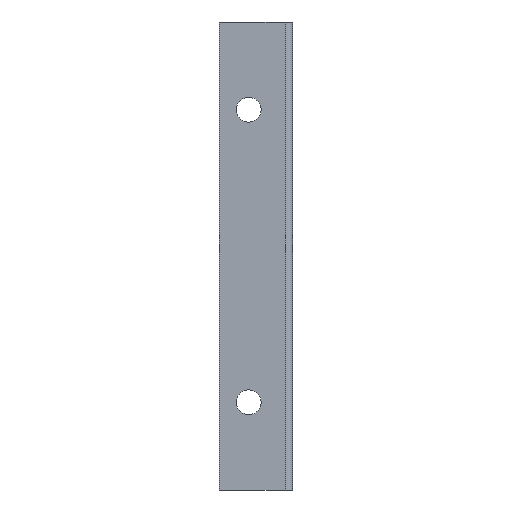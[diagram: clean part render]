
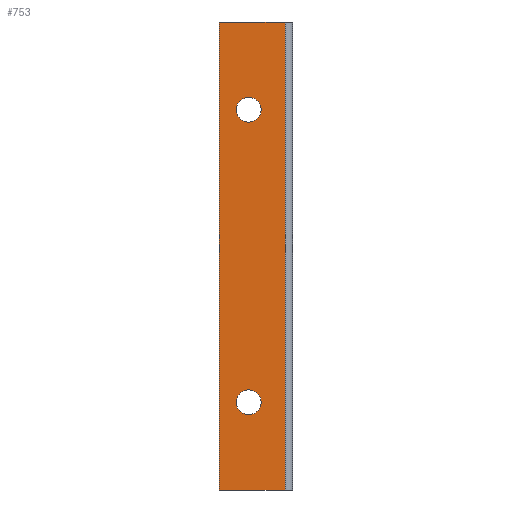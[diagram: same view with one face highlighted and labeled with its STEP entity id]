
A CAD part, front view. The second image highlights one B-rep face of the part: STEP entity #753.
In plain terms, the highlighted planar face has unit normal (0, -1, 0).
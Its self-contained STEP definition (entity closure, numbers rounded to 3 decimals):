
#18 = AXIS2_PLACEMENT_3D ( 'NONE', #217, #795, #876 ) ;
#60 = EDGE_CURVE ( 'NONE', #257, #564, #279, .T. ) ;
#66 = LINE ( 'NONE', #321, #614 ) ;
#68 = CARTESIAN_POINT ( 'NONE',  ( -15., 0., 45.75 ) ) ;
#78 = CARTESIAN_POINT ( 'NONE',  ( -25., 0., 80. ) ) ;
#120 = CIRCLE ( 'NONE', #717, 4.25 ) ;
#125 = ORIENTED_EDGE ( 'NONE', *, *, #348, .F. ) ;
#130 = FACE_BOUND ( 'NONE', #769, .T. ) ;
#139 = DIRECTION ( 'NONE',  ( 1., 0., 0. ) ) ;
#184 = CIRCLE ( 'NONE', #754, 4.25 ) ;
#199 = VECTOR ( 'NONE', #450, 1000. ) ;
#217 = CARTESIAN_POINT ( 'NONE',  ( 0., 0., -80. ) ) ;
#257 = VERTEX_POINT ( 'NONE', #78 ) ;
#260 = CARTESIAN_POINT ( 'NONE',  ( -15., 0., -50. ) ) ;
#278 = ORIENTED_EDGE ( 'NONE', *, *, #60, .F. ) ;
#279 = LINE ( 'NONE', #945, #199 ) ;
#293 = CIRCLE ( 'NONE', #785, 4.25 ) ;
#306 = LINE ( 'NONE', #631, #580 ) ;
#315 = CARTESIAN_POINT ( 'NONE',  ( -15., 0., 54.25 ) ) ;
#316 = VERTEX_POINT ( 'NONE', #835 ) ;
#321 = CARTESIAN_POINT ( 'NONE',  ( -25., 0., -80. ) ) ;
#322 = ORIENTED_EDGE ( 'NONE', *, *, #558, .F. ) ;
#325 = DIRECTION ( 'NONE',  ( 0., 0., 1. ) ) ;
#348 = EDGE_CURVE ( 'NONE', #996, #550, #526, .T. ) ;
#371 = CARTESIAN_POINT ( 'NONE',  ( -2.5, 0., -80. ) ) ;
#450 = DIRECTION ( 'NONE',  ( 1., 0., 0. ) ) ;
#459 = ORIENTED_EDGE ( 'NONE', *, *, #511, .T. ) ;
#494 = ORIENTED_EDGE ( 'NONE', *, *, #838, .F. ) ;
#511 = EDGE_CURVE ( 'NONE', #905, #316, #184, .T. ) ;
#526 = CIRCLE ( 'NONE', #736, 4.25 ) ;
#549 = DIRECTION ( 'NONE',  ( 0., 0., -1. ) ) ;
#550 = VERTEX_POINT ( 'NONE', #315 ) ;
#558 = EDGE_CURVE ( 'NONE', #1073, #257, #66, .T. ) ;
#564 = VERTEX_POINT ( 'NONE', #850 ) ;
#580 = VECTOR ( 'NONE', #139, 1000. ) ;
#614 = VECTOR ( 'NONE', #988, 1000. ) ;
#616 = CARTESIAN_POINT ( 'NONE',  ( -25., 0., -80. ) ) ;
#622 = FACE_BOUND ( 'NONE', #919, .T. ) ;
#631 = CARTESIAN_POINT ( 'NONE',  ( 0., 0., -80. ) ) ;
#637 = ORIENTED_EDGE ( 'NONE', *, *, #947, .T. ) ;
#687 = LINE ( 'NONE', #371, #1053 ) ;
#690 = ORIENTED_EDGE ( 'NONE', *, *, #789, .T. ) ;
#717 = AXIS2_PLACEMENT_3D ( 'NONE', #727, #813, #549 ) ;
#727 = CARTESIAN_POINT ( 'NONE',  ( -15., 0., 50. ) ) ;
#736 = AXIS2_PLACEMENT_3D ( 'NONE', #902, #909, #816 ) ;
#753 = ADVANCED_FACE ( 'NONE', ( #130, #622, #968 ), #958, .T. ) ;
#754 = AXIS2_PLACEMENT_3D ( 'NONE', #260, #1076, #802 ) ;
#769 = EDGE_LOOP ( 'NONE', ( #494, #125 ) ) ;
#780 = VERTEX_POINT ( 'NONE', #884 ) ;
#785 = AXIS2_PLACEMENT_3D ( 'NONE', #925, #913, #325 ) ;
#789 = EDGE_CURVE ( 'NONE', #1073, #780, #306, .T. ) ;
#795 = DIRECTION ( 'NONE',  ( 0., -1., 0. ) ) ;
#802 = DIRECTION ( 'NONE',  ( 0., 0., 1. ) ) ;
#807 = CARTESIAN_POINT ( 'NONE',  ( -15., 0., -45.75 ) ) ;
#813 = DIRECTION ( 'NONE',  ( 0., -1., 0. ) ) ;
#816 = DIRECTION ( 'NONE',  ( 0., 0., -1. ) ) ;
#835 = CARTESIAN_POINT ( 'NONE',  ( -15., 0., -54.25 ) ) ;
#838 = EDGE_CURVE ( 'NONE', #550, #996, #120, .T. ) ;
#850 = CARTESIAN_POINT ( 'NONE',  ( -2.5, 0., 80. ) ) ;
#876 = DIRECTION ( 'NONE',  ( 1., 0., 0. ) ) ;
#884 = CARTESIAN_POINT ( 'NONE',  ( -2.5, 0., -80. ) ) ;
#902 = CARTESIAN_POINT ( 'NONE',  ( -15., 0., 50. ) ) ;
#905 = VERTEX_POINT ( 'NONE', #807 ) ;
#909 = DIRECTION ( 'NONE',  ( 0., -1., 0. ) ) ;
#913 = DIRECTION ( 'NONE',  ( 0., 1., 0. ) ) ;
#919 = EDGE_LOOP ( 'NONE', ( #459, #637 ) ) ;
#925 = CARTESIAN_POINT ( 'NONE',  ( -15., 0., -50. ) ) ;
#933 = ORIENTED_EDGE ( 'NONE', *, *, #1061, .T. ) ;
#945 = CARTESIAN_POINT ( 'NONE',  ( 0., 0., 80. ) ) ;
#947 = EDGE_CURVE ( 'NONE', #316, #905, #293, .T. ) ;
#958 = PLANE ( 'NONE',  #18 ) ;
#968 = FACE_OUTER_BOUND ( 'NONE', #1021, .T. ) ;
#988 = DIRECTION ( 'NONE',  ( 0., 0., 1. ) ) ;
#996 = VERTEX_POINT ( 'NONE', #68 ) ;
#1021 = EDGE_LOOP ( 'NONE', ( #690, #933, #278, #322 ) ) ;
#1030 = DIRECTION ( 'NONE',  ( 0., 0., 1. ) ) ;
#1053 = VECTOR ( 'NONE', #1030, 1000. ) ;
#1061 = EDGE_CURVE ( 'NONE', #780, #564, #687, .T. ) ;
#1073 = VERTEX_POINT ( 'NONE', #616 ) ;
#1076 = DIRECTION ( 'NONE',  ( 0., 1., 0. ) ) ;
